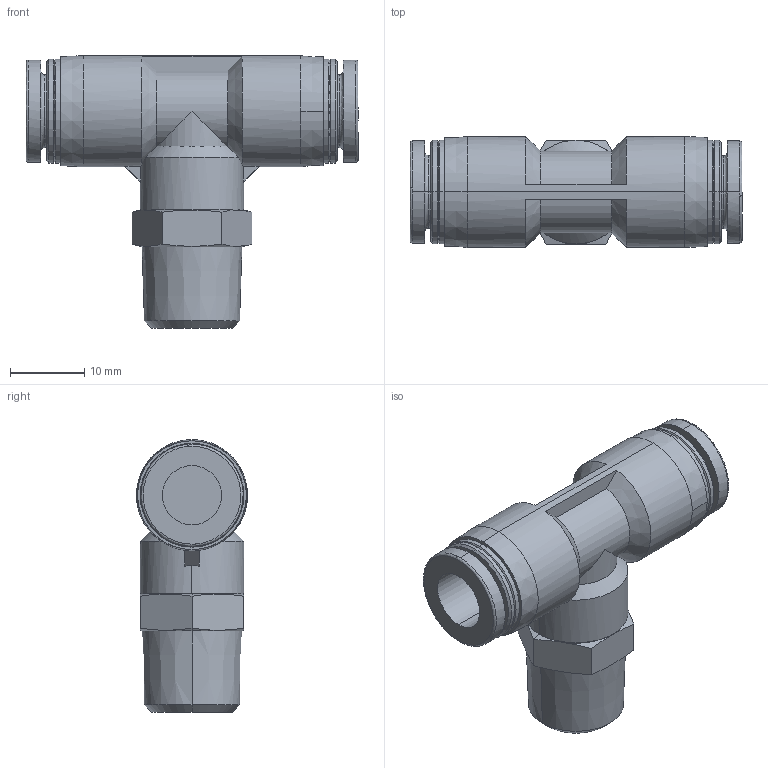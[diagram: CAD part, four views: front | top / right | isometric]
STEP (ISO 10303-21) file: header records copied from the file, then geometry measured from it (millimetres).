
FILE_DESCRIPTION (( 'STEP AP214' ), '1' );
FILE_NAME ('APT8-02.STEP', '2019-12-05T08:34:03', ( '微软用户' ), ( '微软中国' ), 'SwSTEP 2.0', 'SolidWorks 2016', '' );
FILE_SCHEMA (( 'AUTOMOTIVE_DESIGN' ));
Length unit declared in the file: millimetre
Products named in the file (1): APT8-02
Bounding box: 44.8 x 15 x 36.8 mm (x, y, z)
Volume: 8354 mm3; surface area: 4669.4 mm2
Topology: 1 solids, 1 shells, 100 faces, 239 edges, 150 vertices
Faces by surface type: cone 38, cylinder 28, plane 26, bspline 8
Entity records: 3440 total; most frequent: CARTESIAN_POINT 1160, ORIENTED_EDGE 478, DIRECTION 471, EDGE_CURVE 239, AXIS2_PLACEMENT_3D 196, VERTEX_POINT 150, EDGE_LOOP 109, CIRCLE 103
